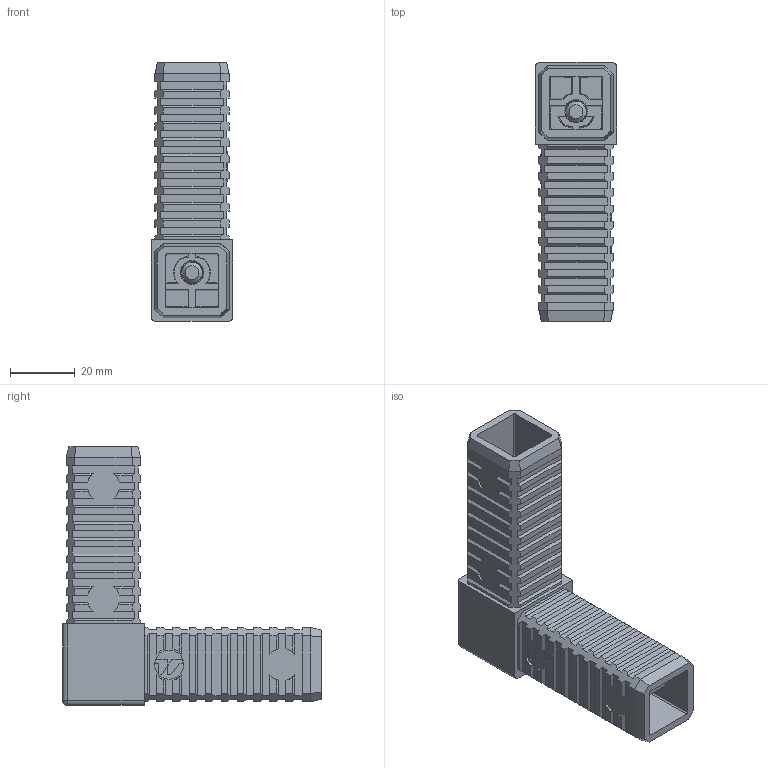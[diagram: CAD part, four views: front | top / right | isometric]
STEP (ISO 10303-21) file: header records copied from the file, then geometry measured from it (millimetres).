
FILE_DESCRIPTION (( 'STEP AP214' ), '1' );
FILE_NAME ('L15876A.step', '2024-12-03T16:20:31', ( '' ), ( '' ), 'SwSTEP 2.0', 'SolidWorks 2023', '' );
FILE_SCHEMA (( 'AUTOMOTIVE_DESIGN' ));
Length unit declared in the file: millimetre
Products named in the file (1): L15876A
Bounding box: 25.3 x 80.15 x 80.15 mm (x, y, z)
Volume: 42412.4 mm3; surface area: 30076.6 mm2
Topology: 1 solids, 1 shells, 1090 faces, 3036 edges, 2017 vertices
Faces by surface type: plane 719, bspline 297, cylinder 55, cone 19
Full cylindrical faces by diameter (mm): 7.259 x1, 9 x1
Entity records: 36519 total; most frequent: CARTESIAN_POINT 10728, ORIENTED_EDGE 6044, DIRECTION 4056, EDGE_CURVE 3022, VECTOR 2216, LINE 2216, VERTEX_POINT 2012, EDGE_LOOP 1178
